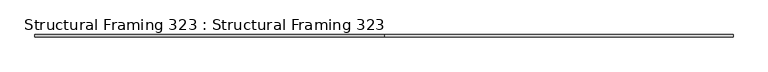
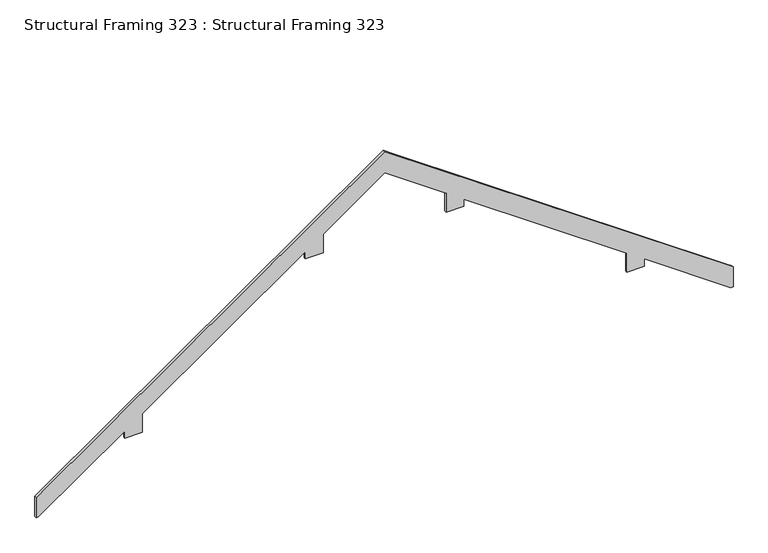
"""IFC4 building model written with IfcOpenShell, lengths in millimetres: beam geometry, Structural Framing 323 : Structural Framing 323."""

import ifcopenshell
import ifcopenshell.guid

model = None  # the IFC model being written
_history = None  # IfcOwnerHistory: only IFC2X3 demands one
_inside = {}  # id of a spatial element -> (the spatial element, [elements in it])
_under = {}  # id of a project, library or spatial element -> (it, [spatial elements below it])
_declared = {}  # id of a project -> (the project, [libraries it declares])
_typed = {}  # id of a type object -> (the type object, [elements of that type])
_made_of = {}  # id of a material, layer set ... -> (it, [elements and type objects made of it])


def new_model(schema):
    """Start an empty IFC model of exactly this schema.

    Asked for "IFC4X3", IfcOpenShell would pick the latest addendum, in which some entities
    have other attributes; the version numbers below select the first issue.
    IFC2X3 requires an IfcOwnerHistory on every rooted entity: one is made here for all.
    """
    global model, _history
    if schema == "IFC4X3":
        model = ifcopenshell.file(schema_version=(4, 3, 0, 0))
    else:
        model = ifcopenshell.file(schema=schema)
    _inside.clear()
    _under.clear()
    _declared.clear()
    _typed.clear()
    _made_of.clear()
    _history = None
    if model.schema == "IFC2X3":
        org = make("IfcOrganization", Name="unknown")
        user = make(
            "IfcPersonAndOrganization",
            ThePerson=make("IfcPerson", FamilyName="unknown"),
            TheOrganization=org,
        )
        app = make(
            "IfcApplication",
            ApplicationDeveloper=org,
            Version="unknown",
            ApplicationFullName="unknown",
            ApplicationIdentifier="unknown",
        )
        _history = make(
            "IfcOwnerHistory",
            OwningUser=user,
            OwningApplication=app,
            ChangeAction="ADDED",
            CreationDate=0,
        )
    return model


def make(cls, **values):
    """One entity of the class cls with the attributes given. An attribute that is None is left unset."""
    return model.create_entity(
        cls, **{name: value for name, value in values.items() if value is not None}
    )


def rooted(cls, **values):
    """An entity with a GlobalId (a new one), such as an element, a storey or a relation."""
    return make(cls, GlobalId=ifcopenshell.guid.new(), OwnerHistory=_history, **values)


def si_unit(unit_type, name, prefix=None):
    """IfcSIUnit, for example si_unit("LENGTHUNIT", "METRE", prefix="MILLI")."""
    return make("IfcSIUnit", UnitType=unit_type, Prefix=prefix, Name=name)


def assignment(units):
    """IfcUnitAssignment: the units of a project."""
    return None if units is None else make("IfcUnitAssignment", Units=units)


def point(xyz):
    """IfcCartesianPoint."""
    return None if xyz is None else make("IfcCartesianPoint", Coordinates=xyz)


def direction(xyz):
    """IfcDirection."""
    return None if xyz is None else make("IfcDirection", DirectionRatios=xyz)


def frame(location, z_axis=None, x_axis=None):
    """IfcAxis2Placement3D, a coordinate frame: its origin and axes. An axis left out is left unset."""
    return make(
        "IfcAxis2Placement3D",
        Location=point(location),
        Axis=direction(z_axis),
        RefDirection=direction(x_axis),
    )


def origin():
    """The frame at (0, 0, 0) with its axes left unset."""
    return frame((0.0, 0.0, 0.0))


def place(relative_to, where):
    """IfcLocalPlacement: puts the frame where relative to a parent placement (None: the world)."""
    return make(
        "IfcLocalPlacement", PlacementRelTo=relative_to, RelativePlacement=where
    )


def context(
    kind, dimensions, precision=None, world=None, true_north=None, identifier=None
):
    """IfcGeometricRepresentationContext, for example the 3D "Model" context."""
    return make(
        "IfcGeometricRepresentationContext",
        ContextIdentifier=identifier,
        ContextType=kind,
        CoordinateSpaceDimension=dimensions,
        Precision=precision,
        WorldCoordinateSystem=world,
        TrueNorth=true_north,
    )


def project(units=None, contexts=None):
    """IfcProject with its units and contexts."""
    return rooted(
        "IfcProject",
        Name="project",
        RepresentationContexts=contexts,
        UnitsInContext=assignment(units),
    )


def spatial(cls, under=None, at=None, **own):
    """A site, building, storey or space (cls), placed at a placement, below another one or the project."""
    s = rooted(cls, ObjectPlacement=at, **own)
    if under is not None:
        _under.setdefault(under.id(), (under, []))[1].append(s)
    return s


def faces_of(points, faces, orient=None, outer=None):
    """IfcFace entities. A face is a list of loops; a loop is a list of indices into points, from 0.

    orient and outer hold one flag for each loop. By default every Orientation is true, the
    first loop of a face is its IfcFaceOuterBound and the others are IfcFaceBound.
    """
    made = []
    for i, loops in enumerate(faces):
        bounds = []
        for j, loop in enumerate(loops):
            is_outer = j == 0 if outer is None else outer[i][j]
            bounds.append(
                make(
                    "IfcFaceOuterBound" if is_outer else "IfcFaceBound",
                    Bound=make("IfcPolyLoop", Polygon=[points[k] for k in loop]),
                    Orientation=True if orient is None else orient[i][j],
                )
            )
        made.append(make("IfcFace", Bounds=bounds))
    return made


def faceted_brep(points, faces, orient=None, outer=None, voids=None):
    """IfcFacetedBrep: a solid bounded by flat faces; with voids (closed shells), ...WithVoids."""
    shared = [point(p) for p in points]
    hull = make("IfcClosedShell", CfsFaces=faces_of(shared, faces, orient, outer))
    if voids is None:
        return make("IfcFacetedBrep", Outer=hull)
    return make(
        "IfcFacetedBrepWithVoids",
        Outer=hull,
        Voids=[
            make(cls, CfsFaces=faces_of(shared, fs, o, b)) for cls, fs, o, b in voids
        ],
    )


def shape(context_of_items, identifier, shape_type, items):
    """IfcShapeRepresentation: the items that make up one representation, for example the "Body"."""
    return make(
        "IfcShapeRepresentation",
        ContextOfItems=context_of_items,
        RepresentationIdentifier=identifier,
        RepresentationType=shape_type,
        Items=items,
    )


def source(mapping_origin, context_of_items, identifier, shape_type, items):
    """IfcRepresentationMap: a shape defined once, which mapped items show again and again."""
    return make(
        "IfcRepresentationMap",
        MappingOrigin=mapping_origin,
        MappedRepresentation=shape(context_of_items, identifier, shape_type, items),
    )


def transform(
    local_origin,
    x_axis=None,
    y_axis=None,
    z_axis=None,
    scale=None,
    scale2=None,
    scale3=None,
    uniform=True,
):
    """IfcCartesianTransformationOperator3D, or its non-uniform kind. x_axis, y_axis, z_axis: its Axis1, 2, 3."""
    if uniform:
        return make(
            "IfcCartesianTransformationOperator3D",
            Axis1=direction(x_axis),
            Axis2=direction(y_axis),
            LocalOrigin=point(local_origin),
            Scale=scale,
            Axis3=direction(z_axis),
        )
    return make(
        "IfcCartesianTransformationOperator3DnonUniform",
        Axis1=direction(x_axis),
        Axis2=direction(y_axis),
        LocalOrigin=point(local_origin),
        Scale=scale,
        Axis3=direction(z_axis),
        Scale2=scale2,
        Scale3=scale3,
    )


def mapped(mapping_source, mapping_target):
    """IfcMappedItem: shows the shape of a source again, moved by a transform."""
    return make(
        "IfcMappedItem", MappingSource=mapping_source, MappingTarget=mapping_target
    )


def made_of(thing, what):
    """Note that an element or type object is made of a material, layer set ...; save() writes the relation."""
    if what is not None:
        _made_of.setdefault(what.id(), (what, []))[1].append(thing)
    return thing


def element(
    cls,
    number,
    at=None,
    inside=None,
    cuts=None,
    type_object=None,
    material=None,
    context=None,
    identifier="Body",
    shape_type=None,
    held_by="IfcProductDefinitionShape",
    body=None,
    shapes=None,
    **own,
):
    """One element of the class cls, such as IfcWall. Its Tag is "e" and its number.

    at: its placement. inside: the storey or other place that contains it. cuts: it is an
    opening in that element (IfcRelVoidsElement). A single representation is given by context,
    identifier, shape_type and body (its items); several are given by shapes. held_by: the class
    of the entity that holds the representations. save() writes the other relations.
    """
    e = rooted(cls, Tag="e%d" % number, ObjectPlacement=at, **own)
    if body is not None:
        shapes = [shape(context, identifier, shape_type, body)]
    if shapes is not None:
        e.Representation = make(held_by, Representations=shapes)
    if inside is not None:
        _inside.setdefault(inside.id(), (inside, []))[1].append(e)
    if cuts is not None:
        rooted(
            "IfcRelVoidsElement", RelatingBuildingElement=cuts, RelatedOpeningElement=e
        )
    if type_object is not None:
        _typed.setdefault(type_object.id(), (type_object, []))[1].append(e)
    return made_of(e, material)


def aggregate(whole, parts):
    """IfcRelAggregates: a whole, such as a stair, and the parts it consists of."""
    return rooted("IfcRelAggregates", RelatingObject=whole, RelatedObjects=parts)


def save(model, path):
    """Write the relations noted so far, then the file.

    IfcRelAggregates (storeys below a building ...), IfcRelContainedInSpatialStructure (elements
    in a storey), IfcRelDefinesByType, IfcRelAssociatesMaterial and IfcRelDeclares: one each for
    every whole, place, type object, material and project.
    """
    for whole, parts in _under.values():
        aggregate(whole, parts)
    for where, things in _inside.values():
        rooted(
            "IfcRelContainedInSpatialStructure",
            RelatedElements=things,
            RelatingStructure=where,
        )
    for kind, things in _typed.values():
        rooted("IfcRelDefinesByType", RelatedObjects=things, RelatingType=kind)
    for what, things in _made_of.values():
        rooted("IfcRelAssociatesMaterial", RelatedObjects=things, RelatingMaterial=what)
    for by, libraries in _declared.values():
        rooted("IfcRelDeclares", RelatingContext=by, RelatedDefinitions=libraries)
    model.write(path)


def structural_framing_323_structural_framing_323_020c7994(model_context):
    return source(origin(), model_context, "Body", "Brep", [
        faceted_brep([(-2661.523644, -6727.9048058, -144.1919814), (-1681.523644, -6727.9048058, 542.0114061), (-1681.523644, -6727.9048058, 456.0155568), (-1481.523644, -6727.9048058, 456.0155568), (-1481.523644, -6727.9048058, 682.0529137), (366.3564667, -6727.9048058, 1975.9524969), (366.3564667, -6727.9048058, 1889.9566477), (566.3564667, -6727.9048058, 1889.9566477), (566.3564667, -6727.9048058, 2115.9940046), (1264.2667784, -6727.9048058, 2604.6760658), (1962.17709, -6727.9048058, 2115.9940046), (1962.17709, -6727.9048058, 1889.9566477), (2162.17709, -6727.9048058, 1889.9566477), (2162.17709, -6727.9048058, 1975.9524969), (4010.0572008, -6727.9048058, 682.0529137), (4010.0572008, -6727.9048058, 456.0155568), (4210.0572008, -6727.9048058, 456.0155568), (4210.0572008, -6727.9048058, 542.0114061), (5190.0572008, -6727.9048058, -144.1919814), (5215.0572008, -6727.9048058, -144.1919814), (5215.0572008, -6727.9048058, 94.6612147), (1264.2667784, -6727.9048058, 2861.0344503), (-2686.523644, -6727.9048058, 94.6612147), (-2686.523644, -6727.9048058, -144.1919814), (-2661.523644, -6702.9048058, -144.1919814), (-2686.523644, -6702.9048058, -144.1919814), (-2686.523644, -6702.9048058, 94.6612147), (-2612.2621242, -6702.9048058, 146.6596907), (1154.0176835, -6702.9048058, 2783.837203), (1264.2667784, -6702.9048058, 2861.0344503), (1374.5158732, -6702.9048058, 2783.837203), (5140.7956809, -6702.9048058, 146.6596907), (5215.0572008, -6702.9048058, 94.6612147), (5215.0572008, -6702.9048058, -144.1919814), (5190.0572008, -6702.9048058, -144.1919814), (4210.0572008, -6702.9048058, 542.0114061), (4210.0572008, -6702.9048058, 456.0155568), (4010.0572008, -6702.9048058, 456.0155568), (4010.0572008, -6702.9048058, 682.0529137), (2162.17709, -6702.9048058, 1975.9524969), (2162.17709, -6702.9048058, 1889.9566477), (1962.17709, -6702.9048058, 1889.9566477), (1962.17709, -6702.9048058, 2115.9940046), (1264.2667784, -6702.9048058, 2604.6760658), (566.3564667, -6702.9048058, 2115.9940046), (566.3564667, -6702.9048058, 1889.9566477), (366.3564667, -6702.9048058, 1889.9566477), (366.3564667, -6702.9048058, 1975.9524969), (-1481.523644, -6702.9048058, 682.0529137), (-1481.523644, -6702.9048058, 456.0155568), (-1681.523644, -6702.9048058, 456.0155568), (-1681.523644, -6702.9048058, 542.0114061)], [[[0, 1, 2, 3, 4, 5, 6, 7, 8, 9, 10, 11, 12, 13, 14, 15, 16, 17, 18, 19, 20, 21, 22, 23]], [[24, 25, 26, 27, 28, 29, 30, 31, 32, 33, 34, 35, 36, 37, 38, 39, 40, 41, 42, 43, 44, 45, 46, 47, 48, 49, 50, 51]], [[1, 0, 24, 51]], [[2, 1, 51, 50]], [[3, 2, 50, 49]], [[4, 3, 49, 48]], [[5, 4, 48, 47]], [[6, 5, 47, 46]], [[7, 6, 46, 45]], [[8, 7, 45, 44]], [[9, 8, 44, 43]], [[10, 9, 43, 42]], [[11, 10, 42, 41]], [[12, 11, 41, 40]], [[13, 12, 40, 39]], [[14, 13, 39, 38]], [[15, 14, 38, 37]], [[16, 15, 37, 36]], [[17, 16, 36, 35]], [[18, 17, 35, 34]], [[19, 18, 34, 33]], [[20, 19, 33, 32]], [[21, 20, 32, 31, 30, 29]], [[22, 21, 29, 28, 27, 26]], [[23, 22, 26, 25]], [[0, 23, 25, 24]]]),
    ])


if __name__ == "__main__":
    model = new_model("IFC4")
    model_context = context("Model", 3, world=origin())
    ifc_project = project(units=[si_unit("LENGTHUNIT", "METRE", prefix="MILLI")], contexts=[model_context])
    site = spatial("IfcSite", under=ifc_project)
    building = spatial("IfcBuilding", under=site)
    placement = place(None, origin())
    structural_framing_323_structural_framing_323_shape = structural_framing_323_structural_framing_323_020c7994(model_context)
    element("IfcBeam", 1, ObjectType="Structural Framing 323 : Structural Framing 323", at=placement, inside=building, context=model_context, shape_type="MappedRepresentation", body=[
        mapped(structural_framing_323_structural_framing_323_shape, transform((0.0, 0.0, 0.0), x_axis=(1.0, 0.0, 0.0), y_axis=(0.0, 1.0, 0.0), z_axis=(0.0, 0.0, 1.0))),
    ])
    save(model, "model.ifc")
